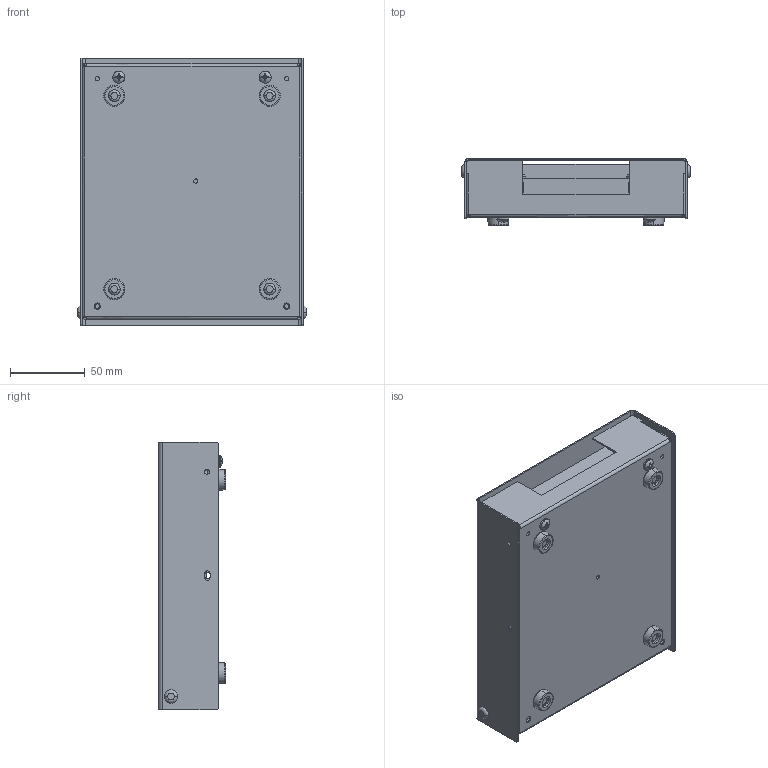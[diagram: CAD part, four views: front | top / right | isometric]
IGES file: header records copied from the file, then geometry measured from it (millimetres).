
Start section:  PTC IGES file: cu_scb-68.igs
Global section: file name: cu_scb-68.igs; native system: Pro/ENGINEER by Parametric Technology Corporation; preprocessor: 2006080; author: lmcdanie; organization: Unknown; date: 070814.110338; units: inch
Bounding box: 153.57 x 44.96 x 179.32 mm (x, y, z)
Surface area: 212734.6 mm2 (no closed solid volume)
Topology: 0 solids, 0 shells, 722 faces, 3448 edges, 3308 vertices
Faces by surface type: bspline 432, revolution 290
